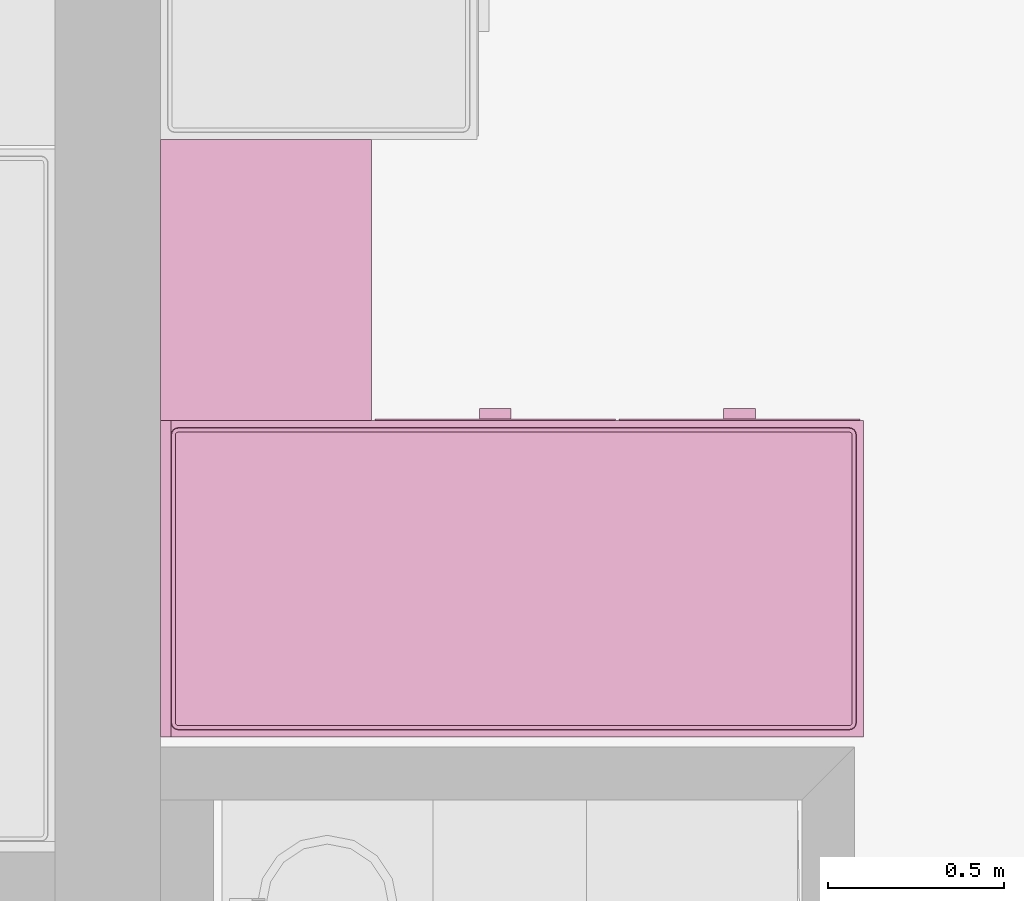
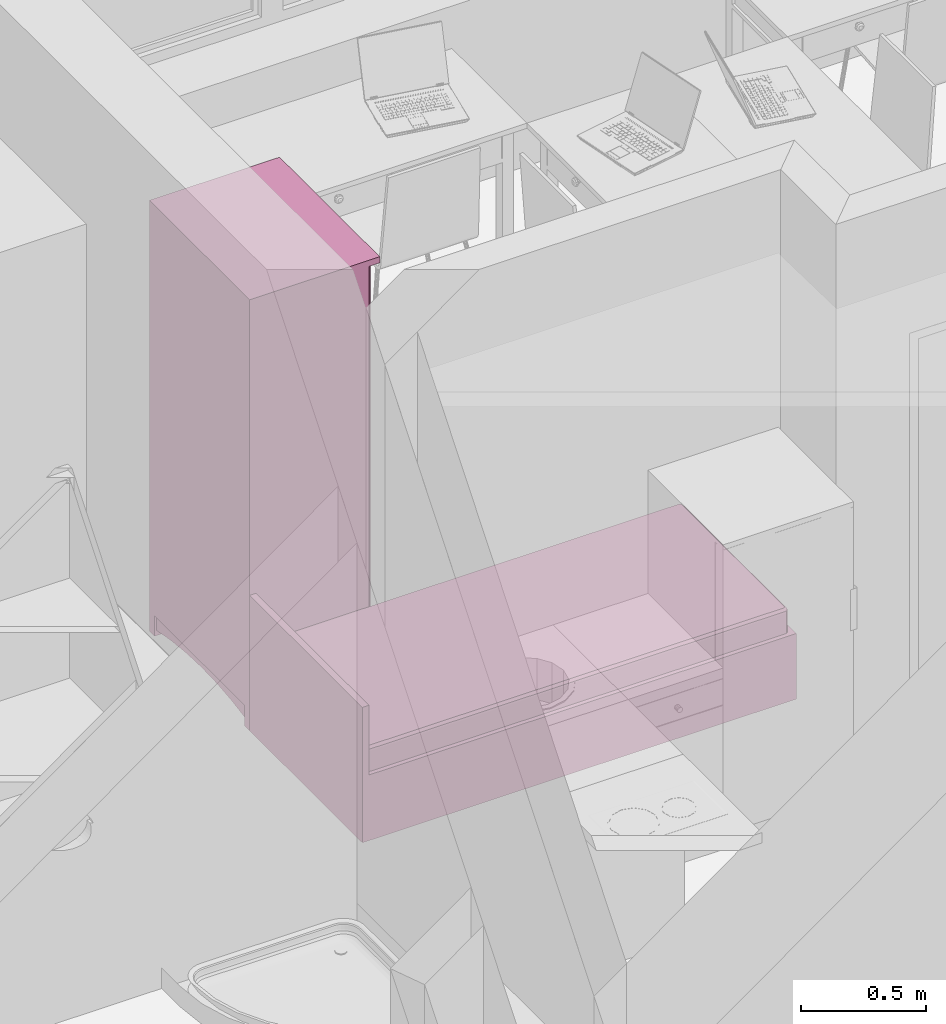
# One storey, part 151 of 172: 2 furnishings.
"""IFC2X3 building model written with IfcOpenShell, lengths in millimetres."""

from ifc_helpers import new_model, entity, si_unit, converted_unit, money_unit, direction, frame, origin_with_axes, place, context, subcontext, project, spatial, faceted_brep, source, transform, mapped, material, material_list, type_object, element, save


model = new_model("IFC2X3")

# Units and contexts
model_context = context("Model", 3, precision=1e-05, world=origin_with_axes(), true_north=direction((0.0, 1.0)))
body_context = subcontext(model_context, "Body", "Model", "MODEL_VIEW")
ifc_project = project(units=[si_unit("LENGTHUNIT", "METRE", prefix="MILLI"), si_unit("AREAUNIT", "SQUARE_METRE"), si_unit("VOLUMEUNIT", "CUBIC_METRE"), converted_unit("PLANEANGLEUNIT", "DEGREE", entity("IfcPlaneAngleMeasure", 0.0174532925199), si_unit("PLANEANGLEUNIT", "RADIAN"), dimensions=[0, 0, 0, 0, 0, 0, 0]), si_unit("SOLIDANGLEUNIT", "STERADIAN"), money_unit("USD"), converted_unit("TIMEUNIT", "Year", entity("IfcTimeMeasure", 31556926.0), si_unit("TIMEUNIT", "SECOND"), dimensions=[0, 0, 0, 0, 0, 0, 0]), si_unit("MASSUNIT", "GRAM"), si_unit("THERMODYNAMICTEMPERATUREUNIT", "DEGREE_CELSIUS"), si_unit("LUMINOUSINTENSITYUNIT", "LUMEN")], contexts=[model_context])

# Site, building, storey
site_placement = place(None, origin_with_axes())
site = spatial("IfcSite", under=ifc_project, at=site_placement, Name="Site", CompositionType="ELEMENT")
building_placement = place(site_placement, origin_with_axes())
building = spatial("IfcBuilding", under=site, at=building_placement, Name="Building", CompositionType="ELEMENT")
storey_placement = place(building_placement, frame((0.0, 0.0, 3200.0), z_axis=(0.0, 0.0, 1.0), x_axis=(1.0, 0.0, 0.0)))
storey = spatial("IfcBuildingStorey", under=building, at=storey_placement, Name="3KORRUS", CompositionType="ELEMENT", Elevation=3200.0)

# Furnishings
ifc_material = material(Name="Background")
ifc_material_list = material_list([ifc_material])
furnishing_element_type_1 = type_object("IfcFurnishingElementType", Name="Bed 19")
shared_shape_1 = source(origin_with_axes(), body_context, "Body", "Brep", [
    faceted_brep([(900.0, 1970.0, 0.0), (0.0, 1970.0, 0.0), (0.0, 2000.0, 0.0), (900.0, 2000.0, 0.0), (900.0, 1970.0, 660.0), (0.0, 1970.0, 660.0), (0.0, 2000.0, 660.0), (900.0, 2000.0, 660.0)], [[[0, 1, 2, 3]], [[1, 0, 4, 5]], [[2, 1, 5, 6]], [[3, 2, 6, 7]], [[0, 3, 7, 4]], [[5, 4, 7, 6]]]),
    faceted_brep([(900.0, 0.0, 0.0), (0.0, 0.0, 0.0), (0.0, 1970.0, 0.0), (900.0, 1970.0, 0.0), (900.0, 0.0, 320.0), (0.0, 0.0, 320.0), (0.0, 1970.0, 320.0), (900.0, 1970.0, 320.0)], [[[0, 1, 2, 3]], [[1, 0, 4, 5]], [[2, 1, 5, 6]], [[3, 2, 6, 7]], [[0, 3, 7, 4]], [[5, 4, 7, 6]]]),
    faceted_brep([(905.0, 10.0, 30.0), (900.0, 10.0, 30.0), (900.0, 695.0, 30.0), (905.0, 695.0, 30.0), (905.0, 10.0, 290.0), (900.0, 10.0, 290.0), (900.0, 695.0, 290.0), (905.0, 695.0, 290.0)], [[[0, 1, 2, 3]], [[1, 0, 4, 5]], [[2, 1, 5, 6]], [[3, 2, 6, 7]], [[0, 3, 7, 4]], [[5, 4, 7, 6]]]),
    faceted_brep([(935.0, 307.5, 150.0), (905.0, 307.5, 150.0), (905.0, 397.5, 150.0), (935.0, 397.5, 150.0), (935.0, 307.5, 170.0), (905.0, 307.5, 170.0), (905.0, 397.5, 170.0), (935.0, 397.5, 170.0)], [[[0, 1, 2, 3]], [[1, 0, 4, 5]], [[2, 1, 5, 6]], [[3, 2, 6, 7]], [[0, 3, 7, 4]], [[5, 4, 7, 6]]]),
    faceted_brep([(905.0, 705.0, 30.0), (900.0, 705.0, 30.0), (900.0, 1390.0, 30.0), (905.0, 1390.0, 30.0), (905.0, 705.0, 290.0), (900.0, 705.0, 290.0), (900.0, 1390.0, 290.0), (905.0, 1390.0, 290.0)], [[[0, 1, 2, 3]], [[1, 0, 4, 5]], [[2, 1, 5, 6]], [[3, 2, 6, 7]], [[0, 3, 7, 4]], [[5, 4, 7, 6]]]),
    faceted_brep([(935.0, 1002.5, 150.0), (905.0, 1002.5, 150.0), (905.0, 1092.5, 150.0), (935.0, 1092.5, 150.0), (935.0, 1002.5, 170.0), (905.0, 1002.5, 170.0), (905.0, 1092.5, 170.0), (935.0, 1092.5, 170.0)], [[[0, 1, 2, 3]], [[1, 0, 4, 5]], [[2, 1, 5, 6]], [[3, 2, 6, 7]], [[0, 3, 7, 4]], [[5, 4, 7, 6]]]),
    faceted_brep([(20.0, 40.0, 350.0), (20.0, 1950.0, 350.0), (21.522, 1957.654, 350.0), (25.858, 1964.142, 350.0), (32.346, 1968.478, 350.0), (40.0, 1970.0, 350.0), (860.0, 1970.0, 350.0), (867.654, 1968.478, 350.0), (874.142, 1964.142, 350.0), (878.478, 1957.654, 350.0), (880.0, 1950.0, 350.0), (880.0, 40.0, 350.0), (878.478, 32.346, 350.0), (874.142, 25.858, 350.0), (867.654, 21.522, 350.0), (860.0, 20.0, 350.0), (40.0, 20.0, 350.0), (32.346, 21.522, 350.0), (25.858, 25.858, 350.0), (21.522, 32.346, 350.0), (20.0, 40.0, 420.0), (20.0, 1950.0, 420.0), (21.522, 1957.654, 420.0), (25.858, 1964.142, 420.0), (32.346, 1968.478, 420.0), (40.0, 1970.0, 420.0), (860.0, 1970.0, 420.0), (867.654, 1968.478, 420.0), (874.142, 1964.142, 420.0), (878.478, 1957.654, 420.0), (880.0, 1950.0, 420.0), (880.0, 40.0, 420.0), (878.478, 32.346, 420.0), (874.142, 25.858, 420.0), (867.654, 21.522, 420.0), (860.0, 20.0, 420.0), (40.0, 20.0, 420.0), (32.346, 21.522, 420.0), (25.858, 25.858, 420.0), (21.522, 32.346, 420.0), (21.522, 40.15, 427.654), (21.522, 1949.85, 427.654), (22.956, 1957.06, 427.654), (26.955, 1963.045, 427.654), (32.94, 1967.044, 427.654), (40.15, 1968.478, 427.654), (859.85, 1968.478, 427.654), (867.06, 1967.044, 427.654), (873.045, 1963.045, 427.654), (877.044, 1957.06, 427.654), (878.478, 1949.85, 427.654), (878.478, 40.15, 427.654), (877.044, 32.94, 427.654), (873.045, 26.955, 427.654), (867.06, 22.956, 427.654), (859.85, 21.522, 427.654), (40.15, 21.522, 427.654), (32.94, 22.956, 427.654), (26.955, 26.955, 427.654), (22.956, 32.94, 427.654), (32.346, 41.216, 438.478), (32.346, 1948.784, 438.478), (33.152, 1952.836, 438.478), (34.759, 1955.241, 438.478), (37.164, 1956.848, 438.478), (41.216, 1957.654, 438.478), (858.784, 1957.654, 438.478), (862.836, 1956.848, 438.478), (865.241, 1955.241, 438.478), (866.848, 1952.836, 438.478), (867.654, 1948.784, 438.478), (867.654, 41.216, 438.478), (866.848, 37.164, 438.478), (865.241, 34.759, 438.478), (862.836, 33.152, 438.478), (858.784, 32.346, 438.478), (41.216, 32.346, 438.478), (37.164, 33.152, 438.478), (34.759, 34.759, 438.478), (33.152, 37.164, 438.478), (40.0, 41.97, 440.0), (40.0, 1948.03, 440.0), (40.327, 1949.673, 440.0), (40.0, 1950.0, 439.924), (41.97, 1950.0, 440.0), (858.03, 1950.0, 440.0), (859.673, 1949.673, 440.0), (860.0, 1950.0, 439.924), (860.0, 1948.03, 440.0), (860.0, 41.97, 440.0), (859.673, 40.327, 440.0), (860.0, 40.0, 439.924), (858.03, 40.0, 440.0), (41.97, 40.0, 440.0), (40.327, 40.327, 440.0), (40.0, 40.0, 439.924)], [[[0, 1, 2, 3, 4, 5, 6, 7, 8, 9, 10, 11, 12, 13, 14, 15, 16, 17, 18, 19]], [[1, 0, 20, 21]], [[2, 1, 21, 22]], [[3, 2, 22, 23]], [[4, 3, 23, 24]], [[5, 4, 24, 25]], [[6, 5, 25, 26]], [[7, 6, 26, 27]], [[8, 7, 27, 28]], [[9, 8, 28, 29]], [[10, 9, 29, 30]], [[11, 10, 30, 31]], [[12, 11, 31, 32]], [[13, 12, 32, 33]], [[14, 13, 33, 34]], [[15, 14, 34, 35]], [[16, 15, 35, 36]], [[17, 16, 36, 37]], [[18, 17, 37, 38]], [[19, 18, 38, 39]], [[0, 19, 39, 20]], [[21, 20, 40, 41]], [[22, 21, 41, 42]], [[23, 22, 42, 43]], [[24, 23, 43, 44]], [[25, 24, 44, 45]], [[26, 25, 45, 46]], [[27, 26, 46, 47]], [[28, 27, 47, 48]], [[29, 28, 48, 49]], [[30, 29, 49, 50]], [[31, 30, 50, 51]], [[32, 31, 51, 52]], [[33, 32, 52, 53]], [[34, 33, 53, 54]], [[35, 34, 54, 55]], [[36, 35, 55, 56]], [[37, 36, 56, 57]], [[38, 37, 57, 58]], [[39, 38, 58, 59]], [[20, 39, 59, 40]], [[41, 40, 60, 61]], [[42, 41, 61, 62]], [[43, 42, 62, 63]], [[44, 43, 63, 64]], [[45, 44, 64, 65]], [[46, 45, 65, 66]], [[47, 46, 66, 67]], [[48, 47, 67, 68]], [[49, 48, 68, 69]], [[50, 49, 69, 70]], [[51, 50, 70, 71]], [[52, 51, 71, 72]], [[53, 52, 72, 73]], [[54, 53, 73, 74]], [[55, 54, 74, 75]], [[56, 55, 75, 76]], [[57, 56, 76, 77]], [[58, 57, 77, 78]], [[59, 58, 78, 79]], [[40, 59, 79, 60]], [[61, 60, 80, 81]], [[62, 61, 81, 82, 83]], [[63, 62, 83]], [[64, 63, 83]], [[65, 64, 83, 82, 84]], [[66, 65, 84, 85]], [[67, 66, 85, 86, 87]], [[68, 67, 87]], [[69, 68, 87]], [[70, 69, 87, 86, 88]], [[71, 70, 88, 89]], [[72, 71, 89, 90, 91]], [[73, 72, 91]], [[74, 73, 91]], [[75, 74, 91, 90, 92]], [[76, 75, 92, 93]], [[77, 76, 93, 94, 95]], [[78, 77, 95]], [[79, 78, 95]], [[60, 79, 95, 94, 80]], [[81, 80, 94, 93, 92, 90, 89, 88, 86, 85, 84, 82]]]),
    faceted_brep([(20.0, 40.0, 350.0), (21.522, 32.346, 350.0), (25.858, 25.858, 350.0), (32.346, 21.522, 350.0), (40.0, 20.0, 350.0), (860.0, 20.0, 350.0), (867.654, 21.522, 350.0), (874.142, 25.858, 350.0), (878.478, 32.346, 350.0), (880.0, 40.0, 350.0), (880.0, 1950.0, 350.0), (878.478, 1957.654, 350.0), (874.142, 1964.142, 350.0), (867.654, 1968.478, 350.0), (860.0, 1970.0, 350.0), (40.0, 1970.0, 350.0), (32.346, 1968.478, 350.0), (25.858, 1964.142, 350.0), (21.522, 1957.654, 350.0), (20.0, 1950.0, 350.0), (20.0, 40.0, 320.0), (21.522, 32.346, 320.0), (25.858, 25.858, 320.0), (32.346, 21.522, 320.0), (40.0, 20.0, 320.0), (860.0, 20.0, 320.0), (867.654, 21.522, 320.0), (874.142, 25.858, 320.0), (878.478, 32.346, 320.0), (880.0, 40.0, 320.0), (880.0, 1950.0, 320.0), (878.478, 1957.654, 320.0), (874.142, 1964.142, 320.0), (867.654, 1968.478, 320.0), (860.0, 1970.0, 320.0), (40.0, 1970.0, 320.0), (32.346, 1968.478, 320.0), (25.858, 1964.142, 320.0), (21.522, 1957.654, 320.0), (20.0, 1950.0, 320.0)], [[[0, 1, 2, 3, 4, 5, 6, 7, 8, 9, 10, 11, 12, 13, 14, 15, 16, 17, 18, 19]], [[0, 20, 21, 1]], [[1, 21, 22, 2]], [[2, 22, 23, 3]], [[3, 23, 24, 4]], [[4, 24, 25, 5]], [[5, 25, 26, 6]], [[6, 26, 27, 7]], [[7, 27, 28, 8]], [[8, 28, 29, 9]], [[9, 29, 30, 10]], [[10, 30, 31, 11]], [[11, 31, 32, 12]], [[12, 32, 33, 13]], [[13, 33, 34, 14]], [[14, 34, 35, 15]], [[15, 35, 36, 16]], [[16, 36, 37, 17]], [[17, 37, 38, 18]], [[18, 38, 39, 19]], [[19, 39, 20, 0]], [[20, 39, 38, 37, 36, 35, 34, 33, 32, 31, 30, 29, 28, 27, 26, 25, 24, 23, 22, 21]]]),
])
furnishing_1_placement = place(storey_placement, frame((14009.7032967, -8890.45351827, 0.0), z_axis=(0.0, 0.0, 1.0), x_axis=(0.0, 1.0, 0.0)))
element("IfcFurnishingElement", 1, at=furnishing_1_placement, inside=storey, type_object=furnishing_element_type_1, material=ifc_material_list, Name="FU - 013", context=body_context, shape_type="MappedRepresentation", body=[
    mapped(shared_shape_1, transform((0.0, 0.0, 0.0))),
])
furnishing_element_type_2 = type_object("IfcFurnishingElementType", Name="Cupboard 19")
shared_shape_2 = source(origin_with_axes(), body_context, "Body", "Brep", [
    faceted_brep([(780.0, 600.0, 120.0), (780.0, 600.0, 2050.0), (780.0, 580.0, 2050.0), (780.0, 580.0, 120.0), (20.0, 600.0, 120.0), (20.0, 600.0, 2050.0), (20.0, 580.0, 2050.0), (20.0, 580.0, 120.0)], [[[0, 1, 2, 3]], [[4, 5, 1, 0]], [[1, 5, 6, 2]], [[3, 2, 6, 7]], [[0, 3, 7, 4]], [[7, 6, 5, 4]]]),
    faceted_brep([(0.0, 50.0, 100.0), (0.0, 600.0, 100.0), (20.0, 600.0, 100.0), (20.0, 50.0, 100.0), (0.0, 50.0, 2070.0), (0.0, 600.0, 2070.0), (20.0, 600.0, 2070.0), (20.0, 50.0, 2070.0)], [[[0, 1, 2, 3]], [[0, 4, 5, 1]], [[1, 5, 6, 2]], [[2, 6, 7, 3]], [[3, 7, 4, 0]], [[7, 6, 5, 4]]]),
    faceted_brep([(780.0, 50.0, 100.0), (780.0, 600.0, 100.0), (800.0, 600.0, 100.0), (800.0, 50.0, 100.0), (780.0, 50.0, 2070.0), (780.0, 600.0, 2070.0), (800.0, 600.0, 2070.0), (800.0, 50.0, 2070.0)], [[[0, 1, 2, 3]], [[0, 4, 5, 1]], [[1, 5, 6, 2]], [[2, 6, 7, 3]], [[3, 7, 4, 0]], [[7, 6, 5, 4]]]),
    faceted_brep([(20.0, 50.0, 100.0), (20.0, 600.0, 100.0), (780.0, 600.0, 100.0), (780.0, 50.0, 100.0), (20.0, 50.0, 120.0), (20.0, 600.0, 120.0), (780.0, 600.0, 120.0), (780.0, 50.0, 120.0)], [[[0, 1, 2, 3]], [[0, 4, 5, 1]], [[1, 5, 6, 2]], [[2, 6, 7, 3]], [[3, 7, 4, 0]], [[7, 6, 5, 4]]]),
    faceted_brep([(20.0, 50.0, 2050.0), (20.0, 600.0, 2050.0), (780.0, 600.0, 2050.0), (780.0, 50.0, 2050.0), (20.0, 50.0, 2070.0), (20.0, 600.0, 2070.0), (780.0, 600.0, 2070.0), (780.0, 50.0, 2070.0)], [[[0, 1, 2, 3]], [[0, 4, 5, 1]], [[1, 5, 6, 2]], [[2, 6, 7, 3]], [[3, 7, 4, 0]], [[7, 6, 5, 4]]]),
    faceted_brep([(0.0, 600.0, 2070.0), (0.0, 0.0, 2070.0), (0.0, 0.0, 2100.0), (0.0, 600.0, 2100.0), (800.0, 600.0, 2070.0), (800.0, 0.0, 2070.0), (800.0, 0.0, 2100.0), (800.0, 600.0, 2100.0)], [[[0, 1, 2, 3]], [[0, 4, 5, 1]], [[1, 5, 6, 2]], [[3, 2, 6, 7]], [[4, 0, 3, 7]], [[5, 4, 7, 6]]]),
    faceted_brep([(760.0, 590.0, 25.0), (760.0, 570.0, 25.0), (640.962, 570.0, 45.8), (640.962, 590.0, 45.8), (760.0, 590.0, 100.0), (760.0, 570.0, 100.0), (40.0, 570.0, 100.0), (40.0, 570.0, 25.0), (159.038, 570.0, 45.8), (279.23, 570.0, 58.32), (400.0, 570.0, 62.5), (520.77, 570.0, 58.32), (520.77, 590.0, 58.32), (400.0, 590.0, 62.5), (279.23, 590.0, 58.32), (159.038, 590.0, 45.8), (40.0, 590.0, 25.0), (40.0, 590.0, 100.0)], [[[0, 1, 2, 3]], [[4, 5, 1, 0]], [[1, 5, 6, 7, 8, 9, 10, 11, 2]], [[3, 2, 11, 12]], [[0, 3, 12, 13, 14, 15, 16, 17, 4]], [[17, 6, 5, 4]], [[16, 7, 6, 17]], [[15, 8, 7, 16]], [[14, 9, 8, 15]], [[13, 10, 9, 14]], [[12, 11, 10, 13]]]),
    faceted_brep([(760.0, 80.0, 25.0), (760.0, 60.0, 25.0), (640.962, 60.0, 45.8), (640.962, 80.0, 45.8), (760.0, 80.0, 100.0), (760.0, 60.0, 100.0), (40.0, 60.0, 100.0), (40.0, 60.0, 25.0), (159.038, 60.0, 45.8), (279.23, 60.0, 58.32), (400.0, 60.0, 62.5), (520.77, 60.0, 58.32), (520.77, 80.0, 58.32), (400.0, 80.0, 62.5), (279.23, 80.0, 58.32), (159.038, 80.0, 45.8), (40.0, 80.0, 25.0), (40.0, 80.0, 100.0)], [[[0, 1, 2, 3]], [[4, 5, 1, 0]], [[1, 5, 6, 7, 8, 9, 10, 11, 2]], [[3, 2, 11, 12]], [[0, 3, 12, 13, 14, 15, 16, 17, 4]], [[17, 6, 5, 4]], [[16, 7, 6, 17]], [[15, 8, 7, 16]], [[14, 9, 8, 15]], [[13, 10, 9, 14]], [[12, 11, 10, 13]]]),
    faceted_brep([(790.0, 90.0, 25.0), (770.0, 90.0, 25.0), (770.0, 141.266, 38.072), (790.0, 141.266, 38.072), (790.0, 90.0, 100.0), (770.0, 90.0, 100.0), (770.0, 560.0, 100.0), (770.0, 560.0, 25.0), (770.0, 508.734, 38.072), (770.0, 456.752, 47.92), (770.0, 404.257, 54.508), (770.0, 351.453, 57.808), (770.0, 298.547, 57.808), (770.0, 245.743, 54.508), (770.0, 193.248, 47.92), (790.0, 193.248, 47.92), (790.0, 245.743, 54.508), (790.0, 298.547, 57.808), (790.0, 351.453, 57.808), (790.0, 404.257, 54.508), (790.0, 456.752, 47.92), (790.0, 508.734, 38.072), (790.0, 560.0, 25.0), (790.0, 560.0, 100.0)], [[[0, 1, 2, 3]], [[4, 5, 1, 0]], [[1, 5, 6, 7, 8, 9, 10, 11, 12, 13, 14, 2]], [[3, 2, 14, 15]], [[0, 3, 15, 16, 17, 18, 19, 20, 21, 22, 23, 4]], [[23, 6, 5, 4]], [[22, 7, 6, 23]], [[21, 8, 7, 22]], [[20, 9, 8, 21]], [[19, 10, 9, 20]], [[18, 11, 10, 19]], [[17, 12, 11, 18]], [[16, 13, 12, 17]], [[15, 14, 13, 16]]]),
    faceted_brep([(30.0, 90.0, 25.0), (10.0, 90.0, 25.0), (10.0, 141.266, 38.072), (30.0, 141.266, 38.072), (30.0, 90.0, 100.0), (10.0, 90.0, 100.0), (10.0, 560.0, 100.0), (10.0, 560.0, 25.0), (10.0, 508.734, 38.072), (10.0, 456.752, 47.92), (10.0, 404.257, 54.508), (10.0, 351.453, 57.808), (10.0, 298.547, 57.808), (10.0, 245.743, 54.508), (10.0, 193.248, 47.92), (30.0, 193.248, 47.92), (30.0, 245.743, 54.508), (30.0, 298.547, 57.808), (30.0, 351.453, 57.808), (30.0, 404.257, 54.508), (30.0, 456.752, 47.92), (30.0, 508.734, 38.072), (30.0, 560.0, 25.0), (30.0, 560.0, 100.0)], [[[0, 1, 2, 3]], [[4, 5, 1, 0]], [[1, 5, 6, 7, 8, 9, 10, 11, 12, 13, 14, 2]], [[3, 2, 14, 15]], [[0, 3, 15, 16, 17, 18, 19, 20, 21, 22, 23, 4]], [[23, 6, 5, 4]], [[22, 7, 6, 23]], [[21, 8, 7, 22]], [[20, 9, 8, 21]], [[19, 10, 9, 20]], [[18, 11, 10, 19]], [[17, 12, 11, 18]], [[16, 13, 12, 17]], [[15, 14, 13, 16]]]),
    faceted_brep([(760.0, 560.0, 0.0), (760.0, 560.0, 100.0), (760.0, 600.0, 100.0), (760.0, 600.0, 0.0), (800.0, 560.0, 0.0), (800.0, 560.0, 100.0), (800.0, 600.0, 100.0), (800.0, 600.0, 0.0)], [[[0, 1, 2, 3]], [[4, 5, 1, 0]], [[1, 5, 6, 2]], [[3, 2, 6, 7]], [[0, 3, 7, 4]], [[7, 6, 5, 4]]]),
    faceted_brep([(0.0, 560.0, 0.0), (0.0, 560.0, 100.0), (0.0, 600.0, 100.0), (0.0, 600.0, 0.0), (40.0, 560.0, 0.0), (40.0, 560.0, 100.0), (40.0, 600.0, 100.0), (40.0, 600.0, 0.0)], [[[0, 1, 2, 3]], [[4, 5, 1, 0]], [[1, 5, 6, 2]], [[3, 2, 6, 7]], [[0, 3, 7, 4]], [[7, 6, 5, 4]]]),
    faceted_brep([(760.0, 50.0, 0.0), (760.0, 50.0, 100.0), (760.0, 90.0, 100.0), (760.0, 90.0, 0.0), (800.0, 50.0, 0.0), (800.0, 50.0, 100.0), (800.0, 90.0, 100.0), (800.0, 90.0, 0.0)], [[[0, 1, 2, 3]], [[4, 5, 1, 0]], [[1, 5, 6, 2]], [[3, 2, 6, 7]], [[0, 3, 7, 4]], [[7, 6, 5, 4]]]),
    faceted_brep([(0.0, 50.0, 0.0), (0.0, 50.0, 100.0), (0.0, 90.0, 100.0), (0.0, 90.0, 0.0), (40.0, 50.0, 0.0), (40.0, 50.0, 100.0), (40.0, 90.0, 100.0), (40.0, 90.0, 0.0)], [[[0, 1, 2, 3]], [[4, 5, 1, 0]], [[1, 5, 6, 2]], [[3, 2, 6, 7]], [[0, 3, 7, 4]], [[7, 6, 5, 4]]]),
    faceted_brep([(780.0, 580.0, 587.5), (780.0, 580.0, 607.5), (780.0, 50.0, 607.5), (780.0, 50.0, 587.5), (20.0, 580.0, 587.5), (20.0, 580.0, 607.5), (20.0, 50.0, 607.5), (20.0, 50.0, 587.5)], [[[0, 1, 2, 3]], [[4, 5, 1, 0]], [[1, 5, 6, 2]], [[3, 2, 6, 7]], [[0, 3, 7, 4]], [[7, 6, 5, 4]]]),
    faceted_brep([(780.0, 580.0, 1075.0), (780.0, 580.0, 1095.0), (780.0, 50.0, 1095.0), (780.0, 50.0, 1075.0), (20.0, 580.0, 1075.0), (20.0, 580.0, 1095.0), (20.0, 50.0, 1095.0), (20.0, 50.0, 1075.0)], [[[0, 1, 2, 3]], [[4, 5, 1, 0]], [[1, 5, 6, 2]], [[3, 2, 6, 7]], [[0, 3, 7, 4]], [[7, 6, 5, 4]]]),
    faceted_brep([(780.0, 580.0, 1562.5), (780.0, 580.0, 1582.5), (780.0, 50.0, 1582.5), (780.0, 50.0, 1562.5), (20.0, 580.0, 1562.5), (20.0, 580.0, 1582.5), (20.0, 50.0, 1582.5), (20.0, 50.0, 1562.5)], [[[0, 1, 2, 3]], [[4, 5, 1, 0]], [[1, 5, 6, 2]], [[3, 2, 6, 7]], [[0, 3, 7, 4]], [[7, 6, 5, 4]]]),
    faceted_brep([(789.5, 50.0, 110.5), (400.5, 50.0, 110.5), (400.5, 50.0, 2059.5), (789.5, 50.0, 2059.5), (789.5, 40.0, 110.5), (400.5, 40.0, 110.5), (400.5, 40.0, 2059.5), (789.5, 40.0, 2059.5), (779.5, 30.0, 120.5), (410.5, 30.0, 120.5), (410.5, 30.0, 2049.5), (779.5, 30.0, 2049.5)], [[[0, 1, 2, 3]], [[0, 4, 5, 1]], [[1, 5, 6, 2]], [[2, 6, 7, 3]], [[3, 7, 4, 0]], [[4, 8, 9, 5]], [[5, 9, 10, 6]], [[6, 10, 11, 7]], [[7, 11, 8, 4]], [[10, 9, 8, 11]]]),
    faceted_brep([(399.5, 50.0, 110.5), (10.5, 50.0, 110.5), (10.5, 50.0, 2059.5), (399.5, 50.0, 2059.5), (399.5, 40.0, 110.5), (10.5, 40.0, 110.5), (10.5, 40.0, 2059.5), (399.5, 40.0, 2059.5), (389.5, 30.0, 120.5), (20.5, 30.0, 120.5), (20.5, 30.0, 2049.5), (389.5, 30.0, 2049.5)], [[[0, 1, 2, 3]], [[0, 4, 5, 1]], [[1, 5, 6, 2]], [[2, 6, 7, 3]], [[3, 7, 4, 0]], [[4, 8, 9, 5]], [[5, 9, 10, 6]], [[6, 10, 11, 7]], [[7, 11, 8, 4]], [[10, 9, 8, 11]]]),
    faceted_brep([(339.608, 30.0, 954.0), (338.0, 30.0, 960.0), (339.608, 30.0, 966.0), (344.0, 30.0, 970.392), (350.0, 30.0, 972.0), (356.0, 30.0, 970.392), (360.392, 30.0, 966.0), (362.0, 30.0, 960.0), (360.392, 30.0, 954.0), (356.0, 30.0, 949.608), (350.0, 30.0, 948.0), (344.0, 30.0, 949.608), (339.608, 5.0, 954.0), (338.0, 5.0, 960.0), (339.608, 5.0, 966.0), (344.0, 5.0, 970.392), (350.0, 5.0, 972.0), (356.0, 5.0, 970.392), (360.392, 5.0, 966.0), (362.0, 5.0, 960.0), (360.392, 5.0, 954.0), (356.0, 5.0, 949.608), (350.0, 5.0, 948.0), (344.0, 5.0, 949.608)], [[[0, 1, 2, 3, 4, 5, 6, 7, 8, 9, 10, 11]], [[0, 12, 13, 1]], [[1, 13, 14, 2]], [[2, 14, 15, 3]], [[3, 15, 16, 4]], [[4, 16, 17, 5]], [[5, 17, 18, 6]], [[6, 18, 19, 7]], [[7, 19, 20, 8]], [[8, 20, 21, 9]], [[9, 21, 22, 10]], [[10, 22, 23, 11]], [[11, 23, 12, 0]], [[12, 23, 22, 21, 20, 19, 18, 17, 16, 15, 14, 13]]]),
    faceted_brep([(460.392, 30.0, 954.0), (456.0, 30.0, 949.608), (450.0, 30.0, 948.0), (444.0, 30.0, 949.608), (439.608, 30.0, 954.0), (438.0, 30.0, 960.0), (439.608, 30.0, 966.0), (444.0, 30.0, 970.392), (450.0, 30.0, 972.0), (456.0, 30.0, 970.392), (460.392, 30.0, 966.0), (462.0, 30.0, 960.0), (460.392, 5.0, 954.0), (456.0, 5.0, 949.608), (450.0, 5.0, 948.0), (444.0, 5.0, 949.608), (439.608, 5.0, 954.0), (438.0, 5.0, 960.0), (439.608, 5.0, 966.0), (444.0, 5.0, 970.392), (450.0, 5.0, 972.0), (456.0, 5.0, 970.392), (460.392, 5.0, 966.0), (462.0, 5.0, 960.0)], [[[0, 1, 2, 3, 4, 5, 6, 7, 8, 9, 10, 11]], [[1, 0, 12, 13]], [[2, 1, 13, 14]], [[3, 2, 14, 15]], [[4, 3, 15, 16]], [[5, 4, 16, 17]], [[6, 5, 17, 18]], [[7, 6, 18, 19]], [[8, 7, 19, 20]], [[9, 8, 20, 21]], [[10, 9, 21, 22]], [[11, 10, 22, 23]], [[0, 11, 23, 12]], [[12, 23, 22, 21, 20, 19, 18, 17, 16, 15, 14, 13]]]),
])
furnishing_2_placement = place(storey_placement, frame((12609.7032967, -7990.45351827, 0.0), z_axis=(0.0, 0.0, 1.0), x_axis=(0.0, 1.0, 0.0)))
element("IfcFurnishingElement", 2, at=furnishing_2_placement, inside=storey, type_object=furnishing_element_type_2, material=ifc_material_list, Name="FU - 014", context=body_context, shape_type="MappedRepresentation", body=[
    mapped(shared_shape_2, transform((0.0, 0.0, 0.0))),
])

save(model, "model.ifc")
